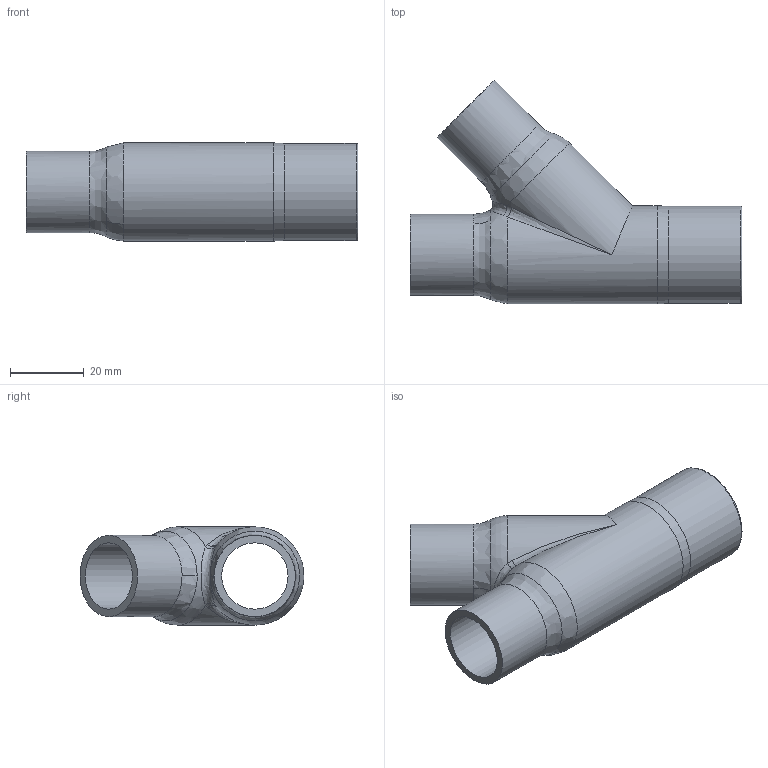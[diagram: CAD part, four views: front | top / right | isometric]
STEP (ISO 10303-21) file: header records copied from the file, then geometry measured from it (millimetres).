
FILE_DESCRIPTION(/* description */ (''),/* implementation_level */ '2;1');
FILE_NAME(/* name */ 'C:/Users/Enrico Olia/Desktop/charlotte valve/GioY.step',/* time_stamp */ '2020-04-01T16:49:53+02:00',/* author */ (''),/* organization */ (''),/* preprocessor_version */ 'ST-DEVELOPER v18',/* originating_system */ 'Autodesk Translation Framework v8.12.0.6',/* authorisation */ '');
FILE_SCHEMA (('AUTOMOTIVE_DESIGN { 1 0 10303 214 3 1 1 }'));
Length unit declared in the file: millimetre
Products named in the file (1): GioY
Bounding box: 90 x 60.66 x 26.6 mm (x, y, z)
Volume: 17642.3 mm3; surface area: 18373 mm2
Topology: 1 solids, 1 shells, 31 faces, 86 edges, 55 vertices
Faces by surface type: bspline 12, cylinder 10, cone 4, plane 3, torus 2
Full cylindrical faces by diameter (mm): 18 x2, 22 x2, 22.3 x1, 22.595 x1, 22.6 x1, 26.3 x1, 26.6 x1
Entity records: 1666 total; most frequent: CARTESIAN_POINT 903, ORIENTED_EDGE 168, DIRECTION 131, EDGE_CURVE 84, AXIS2_PLACEMENT_3D 59, VERTEX_POINT 55, EDGE_LOOP 35, CIRCLE 34
